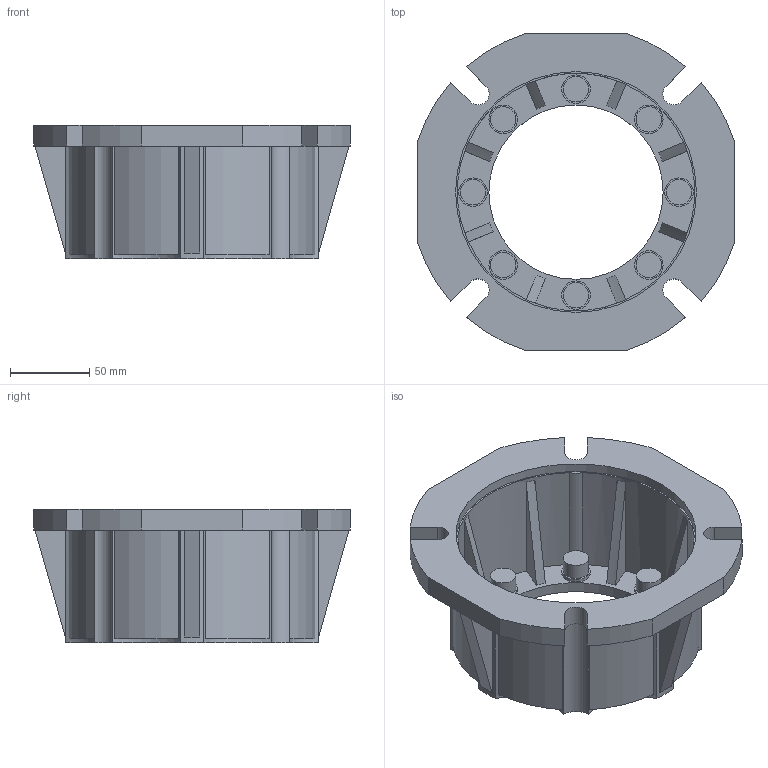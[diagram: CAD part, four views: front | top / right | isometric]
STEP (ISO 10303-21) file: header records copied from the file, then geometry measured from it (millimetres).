
FILE_DESCRIPTION(/* description */ (''),/* implementation_level */ '2;1');
FILE_NAME(/* name */ '3_FLANGIA (CAMPANA) LATERALE FD NMRV-P090',/* time_stamp */ '2025-10-09T15:25:00+02:00',/* author */ (''),/* organization */ (''),/* preprocessor_version */ 'ST-DEVELOPER v19.2',/* originating_system */ 'Rhino 8.23',/* authorisation */ '');
FILE_SCHEMA (('CONFIG_CONTROL_DESIGN'));
Length unit declared in the file: millimetre
Products named in the file (2): Document; FU 90FD-p
Bounding box: 200 x 200 x 84 mm (x, y, z)
Volume: 424441.9 mm3; surface area: 150113.2 mm2
Topology: 1 solids, 1 shells, 165 faces, 428 edges, 284 vertices
Faces by surface type: cylinder 80, plane 77, bspline 8
Entity records: 7046 total; most frequent: CARTESIAN_POINT 1689, ORIENTED_EDGE 856, DIRECTION 589, EDGE_CURVE 428, AXIS2_PLACEMENT_3D 373, VERTEX_POINT 284, B_SPLINE_CURVE_WITH_KNOTS 216, TRIMMED_CURVE 212
